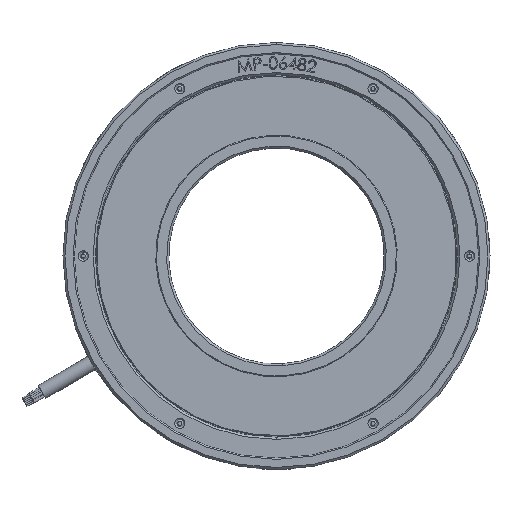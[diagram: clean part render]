
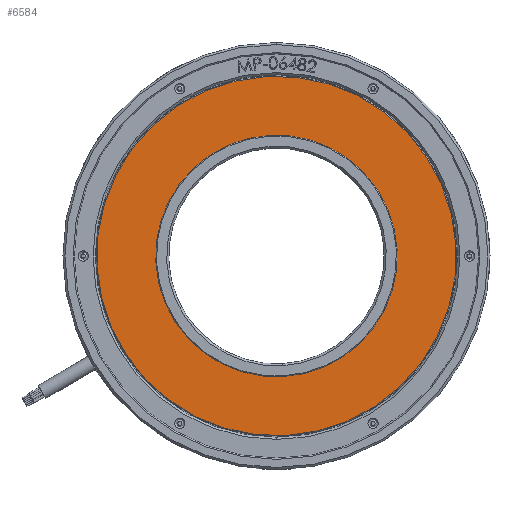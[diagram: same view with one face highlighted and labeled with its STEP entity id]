
A CAD part, front view. The second image highlights one B-rep face of the part: STEP entity #6584.
In plain terms, the highlighted planar face has unit normal (0, -1, 0).
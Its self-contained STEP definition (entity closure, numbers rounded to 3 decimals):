
#1799 = FACE_BOUND ( 'NONE', #48533, .T. ) ;
#2549 = EDGE_CURVE ( 'NONE', #4486, #55390, #54061, .T. ) ;
#3486 = CARTESIAN_POINT ( 'NONE',  ( 0., 0.2, 44.2 ) ) ;
#4486 = VERTEX_POINT ( 'NONE', #30021 ) ;
#4675 = EDGE_CURVE ( 'NONE', #24945, #37901, #57095, .T. ) ;
#5543 = DIRECTION ( 'NONE',  ( 0., 0., -1. ) ) ;
#6584 = ADVANCED_FACE ( 'NONE', ( #34342, #1799 ), #57144, .T. ) ;
#7394 = DIRECTION ( 'NONE',  ( 0., -1., 0. ) ) ;
#8208 = ORIENTED_EDGE ( 'NONE', *, *, #2549, .T. ) ;
#11499 = CARTESIAN_POINT ( 'NONE',  ( 0., 0.2, -29.7 ) ) ;
#11677 = ORIENTED_EDGE ( 'NONE', *, *, #58381, .F. ) ;
#13558 = AXIS2_PLACEMENT_3D ( 'NONE', #19444, #14111, #5543 ) ;
#14111 = DIRECTION ( 'NONE',  ( 0., -1., 0. ) ) ;
#14255 = AXIS2_PLACEMENT_3D ( 'NONE', #18869, #55597, #23317 ) ;
#14562 = CIRCLE ( 'NONE', #20289, 44.2 ) ;
#17099 = EDGE_LOOP ( 'NONE', ( #37240, #8208 ) ) ;
#18054 = CARTESIAN_POINT ( 'NONE',  ( 0., 0.2, 29.7 ) ) ;
#18869 = CARTESIAN_POINT ( 'NONE',  ( 0., 0.2, 0. ) ) ;
#19444 = CARTESIAN_POINT ( 'NONE',  ( 0., 0.2, 0. ) ) ;
#20128 = DIRECTION ( 'NONE',  ( 0., 0., -1. ) ) ;
#20289 = AXIS2_PLACEMENT_3D ( 'NONE', #24271, #42353, #37895 ) ;
#23317 = DIRECTION ( 'NONE',  ( 0., 0., -1. ) ) ;
#24271 = CARTESIAN_POINT ( 'NONE',  ( 0., 0.2, 0. ) ) ;
#24945 = VERTEX_POINT ( 'NONE', #11499 ) ;
#25698 = AXIS2_PLACEMENT_3D ( 'NONE', #27664, #41331, #31544 ) ;
#27664 = CARTESIAN_POINT ( 'NONE',  ( 0., 0.2, 0. ) ) ;
#29387 = CIRCLE ( 'NONE', #14255, 29.7 ) ;
#30021 = CARTESIAN_POINT ( 'NONE',  ( 0., 0.2, -44.2 ) ) ;
#30812 = ORIENTED_EDGE ( 'NONE', *, *, #4675, .F. ) ;
#31544 = DIRECTION ( 'NONE',  ( 0., 0., -1. ) ) ;
#31555 = AXIS2_PLACEMENT_3D ( 'NONE', #51833, #7394, #20128 ) ;
#34342 = FACE_OUTER_BOUND ( 'NONE', #17099, .T. ) ;
#35489 = EDGE_CURVE ( 'NONE', #55390, #4486, #14562, .T. ) ;
#37240 = ORIENTED_EDGE ( 'NONE', *, *, #35489, .T. ) ;
#37895 = DIRECTION ( 'NONE',  ( 0., 0., -1. ) ) ;
#37901 = VERTEX_POINT ( 'NONE', #18054 ) ;
#41331 = DIRECTION ( 'NONE',  ( 0., -1., 0. ) ) ;
#42353 = DIRECTION ( 'NONE',  ( 0., -1., 0. ) ) ;
#48533 = EDGE_LOOP ( 'NONE', ( #11677, #30812 ) ) ;
#51833 = CARTESIAN_POINT ( 'NONE',  ( 0., 0.2, 0. ) ) ;
#54061 = CIRCLE ( 'NONE', #25698, 44.2 ) ;
#55390 = VERTEX_POINT ( 'NONE', #3486 ) ;
#55597 = DIRECTION ( 'NONE',  ( 0., -1., 0. ) ) ;
#57095 = CIRCLE ( 'NONE', #13558, 29.7 ) ;
#57144 = PLANE ( 'NONE',  #31555 ) ;
#58381 = EDGE_CURVE ( 'NONE', #37901, #24945, #29387, .T. ) ;
